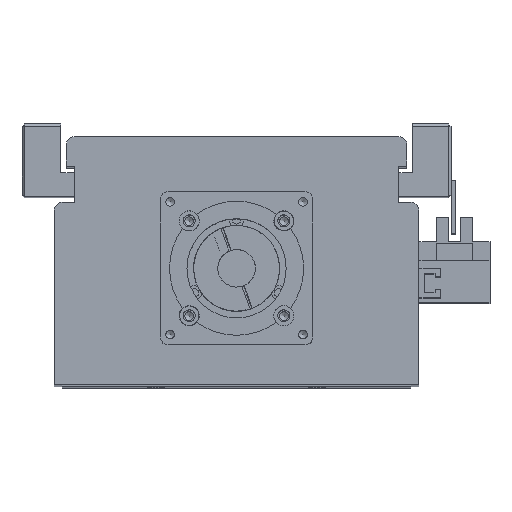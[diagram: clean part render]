
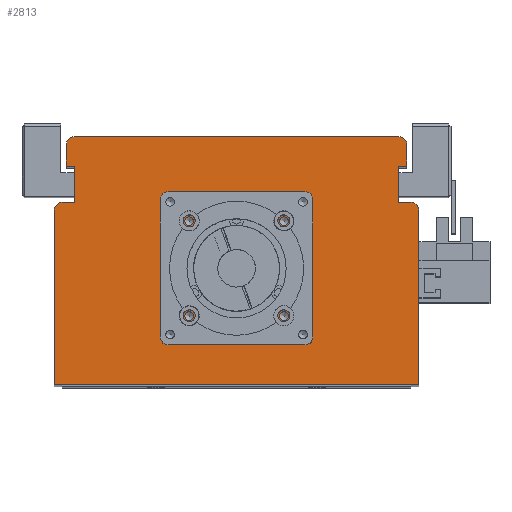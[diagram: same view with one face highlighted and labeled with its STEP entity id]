
A CAD part, top view. The second image highlights one B-rep face of the part: STEP entity #2813.
In plain terms, the highlighted planar face has unit normal (0, 0, 1).
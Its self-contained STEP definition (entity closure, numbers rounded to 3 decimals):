
#1371=CARTESIAN_POINT('',(19.321,61.5,445.0));
#1372=VERTEX_POINT('',#1371);
#1373=CARTESIAN_POINT('',(17.7,61.5,445.0));
#1374=DIRECTION('',(0.0,0.0,-1.0));
#1375=DIRECTION('',(1.0,0.0,0.0));
#1376=AXIS2_PLACEMENT_3D('',#1373,#1374,#1375);
#1377=CIRCLE('',#1376,1.621);
#1378=EDGE_CURVE('',#1372,#1372,#1377,.T.);
#1450=CARTESIAN_POINT('',(19.321,26.1,445.0));
#1451=VERTEX_POINT('',#1450);
#1452=CARTESIAN_POINT('',(17.7,26.1,445.0));
#1453=DIRECTION('',(0.0,0.0,-1.0));
#1454=DIRECTION('',(1.0,0.0,0.0));
#1455=AXIS2_PLACEMENT_3D('',#1452,#1453,#1454);
#1456=CIRCLE('',#1455,1.621);
#1457=EDGE_CURVE('',#1451,#1451,#1456,.T.);
#1529=CARTESIAN_POINT('',(-16.079,26.1,445.0));
#1530=VERTEX_POINT('',#1529);
#1531=CARTESIAN_POINT('',(-17.7,26.1,445.0));
#1532=DIRECTION('',(0.0,0.0,-1.0));
#1533=DIRECTION('',(1.0,0.0,0.0));
#1534=AXIS2_PLACEMENT_3D('',#1531,#1532,#1533);
#1535=CIRCLE('',#1534,1.621);
#1536=EDGE_CURVE('',#1530,#1530,#1535,.T.);
#1608=CARTESIAN_POINT('',(-16.079,61.5,445.0));
#1609=VERTEX_POINT('',#1608);
#1610=CARTESIAN_POINT('',(-17.7,61.5,445.0));
#1611=DIRECTION('',(0.0,0.0,-1.0));
#1612=DIRECTION('',(1.0,0.0,0.0));
#1613=AXIS2_PLACEMENT_3D('',#1610,#1611,#1612);
#1614=CIRCLE('',#1613,1.621);
#1615=EDGE_CURVE('',#1609,#1609,#1614,.T.);
#1649=CARTESIAN_POINT('',(26.5,43.8,445.0));
#1650=VERTEX_POINT('',#1649);
#1651=CARTESIAN_POINT('',(24.5,43.8,445.0));
#1652=DIRECTION('',(0.0,0.0,-1.0));
#1653=DIRECTION('',(1.0,0.0,0.0));
#1654=AXIS2_PLACEMENT_3D('',#1651,#1652,#1653);
#1655=CIRCLE('',#1654,2.0);
#1656=EDGE_CURVE('',#1650,#1650,#1655,.T.);
#1698=CARTESIAN_POINT('',(-22.5,43.8,445.0));
#1699=VERTEX_POINT('',#1698);
#1700=CARTESIAN_POINT('',(-24.5,43.8,445.0));
#1701=DIRECTION('',(0.0,0.0,-1.0));
#1702=DIRECTION('',(1.0,0.0,0.0));
#1703=AXIS2_PLACEMENT_3D('',#1700,#1701,#1702);
#1704=CIRCLE('',#1703,2.0);
#1705=EDGE_CURVE('',#1699,#1699,#1704,.T.);
#2629=CARTESIAN_POINT('',(21.05,43.8,445.0));
#2630=VERTEX_POINT('',#2629);
#2631=CARTESIAN_POINT('',(0.0,43.8,445.0));
#2632=DIRECTION('',(0.0,0.0,-1.0));
#2633=DIRECTION('',(-1.0,0.0,0.0));
#2634=AXIS2_PLACEMENT_3D('',#2631,#2632,#2633);
#2635=CIRCLE('',#2634,21.05);
#2636=EDGE_CURVE('',#2630,#2630,#2635,.T.);
#2653=CARTESIAN_POINT('',(0.,29.533,445.0));
#2654=DIRECTION('',(0.0,0.0,1.0));
#2655=DIRECTION('',(1.0,0.0,0.0));
#2656=AXIS2_PLACEMENT_3D('',#2653,#2654,#2655);
#2657=PLANE('',#2656);
#2658=CARTESIAN_POINT('',(-65.,68.5,445.0));
#2659=VERTEX_POINT('',#2658);
#2660=CARTESIAN_POINT('',(-60.5,68.5,445.0));
#2661=VERTEX_POINT('',#2660);
#2662=CARTESIAN_POINT('',(-65.,68.5,445.0));
#2663=DIRECTION('',(1.0,0.0,0.0));
#2664=VECTOR('',#2663,4.5);
#2665=LINE('',#2662,#2664);
#2666=EDGE_CURVE('',#2659,#2661,#2665,.T.);
#2667=ORIENTED_EDGE('',*,*,#2666,.F.);
#2668=CARTESIAN_POINT('',(-68.,65.5,445.0));
#2669=VERTEX_POINT('',#2668);
#2670=CARTESIAN_POINT('',(-65.,65.5,445.0));
#2671=DIRECTION('',(0.0,0.0,-1.0));
#2672=DIRECTION('',(0.0,1.0,0.0));
#2673=AXIS2_PLACEMENT_3D('',#2670,#2671,#2672);
#2674=CIRCLE('',#2673,3.);
#2675=EDGE_CURVE('',#2669,#2659,#2674,.T.);
#2676=ORIENTED_EDGE('',*,*,#2675,.F.);
#2677=CARTESIAN_POINT('',(-68.0,0.5,445.0));
#2678=VERTEX_POINT('',#2677);
#2679=CARTESIAN_POINT('',(-68.0,0.5,445.0));
#2680=DIRECTION('',(0.0,1.0,0.0));
#2681=VECTOR('',#2680,65.0);
#2682=LINE('',#2679,#2681);
#2683=EDGE_CURVE('',#2678,#2669,#2682,.T.);
#2684=ORIENTED_EDGE('',*,*,#2683,.F.);
#2685=CARTESIAN_POINT('',(68.0,0.5,445.0));
#2686=VERTEX_POINT('',#2685);
#2687=CARTESIAN_POINT('',(68.0,0.5,445.0));
#2688=DIRECTION('',(-1.0,0.0,0.0));
#2689=VECTOR('',#2688,136.0);
#2690=LINE('',#2687,#2689);
#2691=EDGE_CURVE('',#2686,#2678,#2690,.T.);
#2692=ORIENTED_EDGE('',*,*,#2691,.F.);
#2693=CARTESIAN_POINT('',(68.0,65.5,445.0));
#2694=VERTEX_POINT('',#2693);
#2695=CARTESIAN_POINT('',(68.0,65.5,445.0));
#2696=DIRECTION('',(0.0,-1.0,0.0));
#2697=VECTOR('',#2696,65.0);
#2698=LINE('',#2695,#2697);
#2699=EDGE_CURVE('',#2694,#2686,#2698,.T.);
#2700=ORIENTED_EDGE('',*,*,#2699,.F.);
#2701=CARTESIAN_POINT('',(65.,68.5,445.0));
#2702=VERTEX_POINT('',#2701);
#2703=CARTESIAN_POINT('',(65.,65.5,445.0));
#2704=DIRECTION('',(0.0,0.0,-1.0));
#2705=DIRECTION('',(1.0,0.0,0.0));
#2706=AXIS2_PLACEMENT_3D('',#2703,#2704,#2705);
#2707=CIRCLE('',#2706,3.);
#2708=EDGE_CURVE('',#2702,#2694,#2707,.T.);
#2709=ORIENTED_EDGE('',*,*,#2708,.F.);
#2710=CARTESIAN_POINT('',(60.5,68.5,445.0));
#2711=VERTEX_POINT('',#2710);
#2712=CARTESIAN_POINT('',(60.5,68.5,445.0));
#2713=DIRECTION('',(1.0,0.0,0.0));
#2714=VECTOR('',#2713,4.5);
#2715=LINE('',#2712,#2714);
#2716=EDGE_CURVE('',#2711,#2702,#2715,.T.);
#2717=ORIENTED_EDGE('',*,*,#2716,.F.);
#2718=CARTESIAN_POINT('',(60.5,82.,445.0));
#2719=VERTEX_POINT('',#2718);
#2720=CARTESIAN_POINT('',(60.5,82.,445.0));
#2721=DIRECTION('',(0.0,-1.0,0.0));
#2722=VECTOR('',#2721,13.5);
#2723=LINE('',#2720,#2722);
#2724=EDGE_CURVE('',#2719,#2711,#2723,.T.);
#2725=ORIENTED_EDGE('',*,*,#2724,.F.);
#2726=CARTESIAN_POINT('',(63.5,82.,445.0));
#2727=VERTEX_POINT('',#2726);
#2728=CARTESIAN_POINT('',(63.5,82.,445.0));
#2729=DIRECTION('',(-1.0,0.0,0.0));
#2730=VECTOR('',#2729,3.0);
#2731=LINE('',#2728,#2730);
#2732=EDGE_CURVE('',#2727,#2719,#2731,.T.);
#2733=ORIENTED_EDGE('',*,*,#2732,.F.);
#2734=CARTESIAN_POINT('',(63.5,90.0,445.0));
#2735=VERTEX_POINT('',#2734);
#2736=CARTESIAN_POINT('',(63.5,90.0,445.0));
#2737=DIRECTION('',(0.0,-1.0,0.0));
#2738=VECTOR('',#2737,8.);
#2739=LINE('',#2736,#2738);
#2740=EDGE_CURVE('',#2735,#2727,#2739,.T.);
#2741=ORIENTED_EDGE('',*,*,#2740,.F.);
#2742=CARTESIAN_POINT('',(60.5,93.,445.0));
#2743=VERTEX_POINT('',#2742);
#2744=CARTESIAN_POINT('',(60.5,90.0,445.0));
#2745=DIRECTION('',(0.0,0.0,-1.0));
#2746=DIRECTION('',(1.0,0.0,0.0));
#2747=AXIS2_PLACEMENT_3D('',#2744,#2745,#2746);
#2748=CIRCLE('',#2747,3.);
#2749=EDGE_CURVE('',#2743,#2735,#2748,.T.);
#2750=ORIENTED_EDGE('',*,*,#2749,.F.);
#2751=CARTESIAN_POINT('',(-60.5,93.0,445.0));
#2752=VERTEX_POINT('',#2751);
#2753=CARTESIAN_POINT('',(-60.5,93.0,445.0));
#2754=DIRECTION('',(1.0,0.0,0.0));
#2755=VECTOR('',#2754,121.0);
#2756=LINE('',#2753,#2755);
#2757=EDGE_CURVE('',#2752,#2743,#2756,.T.);
#2758=ORIENTED_EDGE('',*,*,#2757,.F.);
#2759=CARTESIAN_POINT('',(-63.5,90.0,445.0));
#2760=VERTEX_POINT('',#2759);
#2761=CARTESIAN_POINT('',(-60.5,90.0,445.0));
#2762=DIRECTION('',(0.0,0.0,-1.0));
#2763=DIRECTION('',(0.0,1.0,0.0));
#2764=AXIS2_PLACEMENT_3D('',#2761,#2762,#2763);
#2765=CIRCLE('',#2764,3.);
#2766=EDGE_CURVE('',#2760,#2752,#2765,.T.);
#2767=ORIENTED_EDGE('',*,*,#2766,.F.);
#2768=CARTESIAN_POINT('',(-63.5,82.,445.0));
#2769=VERTEX_POINT('',#2768);
#2770=CARTESIAN_POINT('',(-63.5,82.,445.0));
#2771=DIRECTION('',(0.0,1.0,0.0));
#2772=VECTOR('',#2771,8.);
#2773=LINE('',#2770,#2772);
#2774=EDGE_CURVE('',#2769,#2760,#2773,.T.);
#2775=ORIENTED_EDGE('',*,*,#2774,.F.);
#2776=CARTESIAN_POINT('',(-60.5,82.,445.0));
#2777=VERTEX_POINT('',#2776);
#2778=CARTESIAN_POINT('',(-60.5,82.,445.0));
#2779=DIRECTION('',(-1.0,0.0,0.0));
#2780=VECTOR('',#2779,3.);
#2781=LINE('',#2778,#2780);
#2782=EDGE_CURVE('',#2777,#2769,#2781,.T.);
#2783=ORIENTED_EDGE('',*,*,#2782,.F.);
#2784=CARTESIAN_POINT('',(-60.5,68.5,445.0));
#2785=DIRECTION('',(0.0,1.0,0.0));
#2786=VECTOR('',#2785,13.5);
#2787=LINE('',#2784,#2786);
#2788=EDGE_CURVE('',#2661,#2777,#2787,.T.);
#2789=ORIENTED_EDGE('',*,*,#2788,.F.);
#2790=EDGE_LOOP('',(#2667,#2676,#2684,#2692,#2700,#2709,#2717,#2725,#2733,#2741,#2750,#2758,#2767,#2775,#2783,#2789));
#2791=FACE_OUTER_BOUND('',#2790,.T.);
#2792=ORIENTED_EDGE('',*,*,#1378,.T.);
#2793=EDGE_LOOP('',(#2792));
#2794=FACE_BOUND('',#2793,.T.);
#2795=ORIENTED_EDGE('',*,*,#1457,.T.);
#2796=EDGE_LOOP('',(#2795));
#2797=FACE_BOUND('',#2796,.T.);
#2798=ORIENTED_EDGE('',*,*,#1536,.T.);
#2799=EDGE_LOOP('',(#2798));
#2800=FACE_BOUND('',#2799,.T.);
#2801=ORIENTED_EDGE('',*,*,#1615,.T.);
#2802=EDGE_LOOP('',(#2801));
#2803=FACE_BOUND('',#2802,.T.);
#2804=ORIENTED_EDGE('',*,*,#1656,.T.);
#2805=EDGE_LOOP('',(#2804));
#2806=FACE_BOUND('',#2805,.T.);
#2807=ORIENTED_EDGE('',*,*,#1705,.T.);
#2808=EDGE_LOOP('',(#2807));
#2809=FACE_BOUND('',#2808,.T.);
#2810=ORIENTED_EDGE('',*,*,#2636,.T.);
#2811=EDGE_LOOP('',(#2810));
#2812=FACE_BOUND('',#2811,.T.);
#2813=ADVANCED_FACE('',(#2791,#2794,#2797,#2800,#2803,#2806,#2809,#2812),#2657,.T.);
